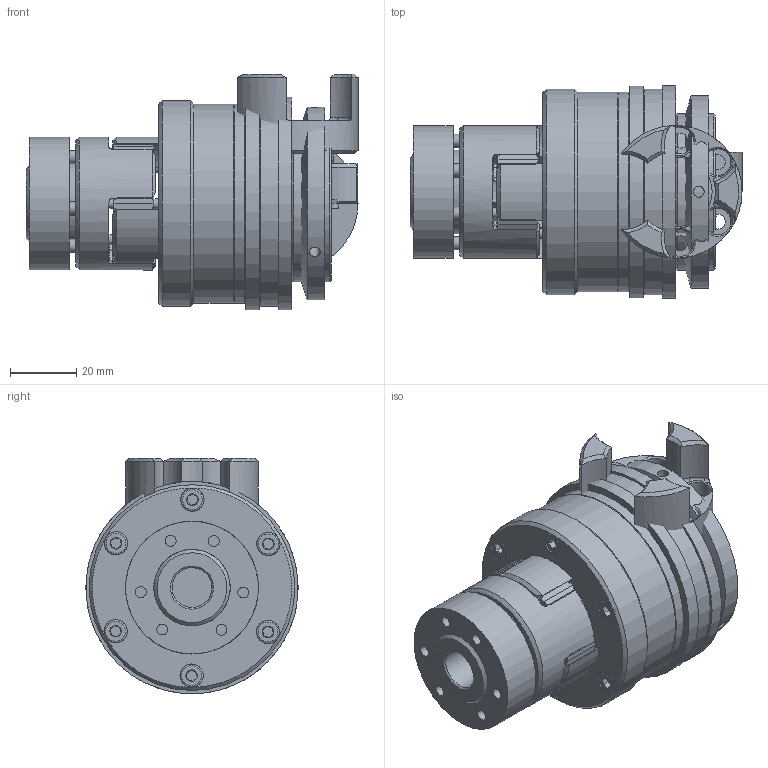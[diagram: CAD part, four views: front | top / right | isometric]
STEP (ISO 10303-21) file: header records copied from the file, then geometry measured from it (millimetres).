
FILE_DESCRIPTION( ( 'Unknown' ), '1' );
FILE_NAME( 'C:/Dokumente und Einstellungen/Sven/Desktop/hp kbk/E-AP/KBK EAP-19-81.stp', 'Unknown', ( 'Unknown' ), ( 'Unknown' ), 'XStep 1.0', 'Unknown', ' ' );
FILE_SCHEMA( ( 'automotive_design' ) );
Length unit declared in the file: millimetre
Products named in the file (15): Assem1; Assem2; ball_bearing_-_6005_0_01_0; ball_bearing_-_6005_0_02_0; ball_bearing_-_6005_0_03_0; L-P-30 Grundkörper_0; Stellring 30_0; Druckring 30_0; a_25_0; Flansch L30_0; Elastomerflansch 19_0; Zahnkranz_19_0; ISO EN DIN 4762_M4x16_0; KBE 3 - 19_Nabe; KBE3-19_Druckring_0
Bounding box: 100 x 64 x 71 mm (x, y, z)
Volume: 280360 mm3; surface area: 149599.3 mm2
Topology: 40 solids, 40 shells, 1038 faces, 2276 edges, 1408 vertices
Faces by surface type: plane 356, cylinder 312, cone 239, torus 83, bspline 48
Full cylindrical faces by diameter (mm): 2 x4, 3 x12, 3.242 x18, 3.3 x18, 3.5 x13, 4 x26, 4.2 x12, 4.5 x12, 7 x25, 8 x14, 12 x2, 18 x4, 22 x2, 23.9 x2, 25 x7, 25.1 x2, 32 x6, 34 x2, 38 x4, 40 x6, 40.3 x6, 47 x7, 52 x2, 58 x2, 60 x4, 62 x2, 64 x2
Entity records: 12094 total; most frequent: CARTESIAN_POINT 2993, DIRECTION 1736, ORIENTED_EDGE 1416, AXIS2_PLACEMENT_3D 791, EDGE_CURVE 708, EDGE_LOOP 586, VERTEX_POINT 504, FACE_OUTER_BOUND 469
